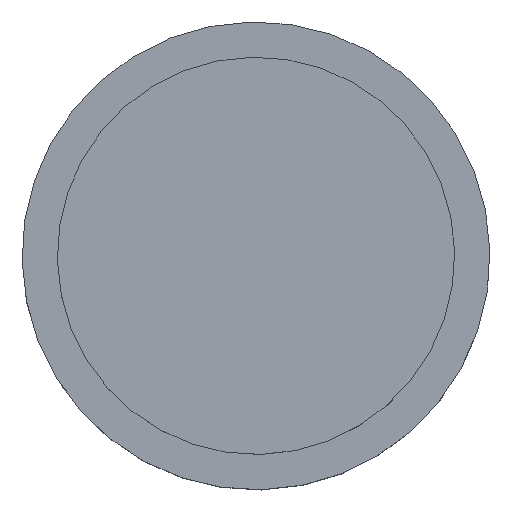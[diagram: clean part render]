
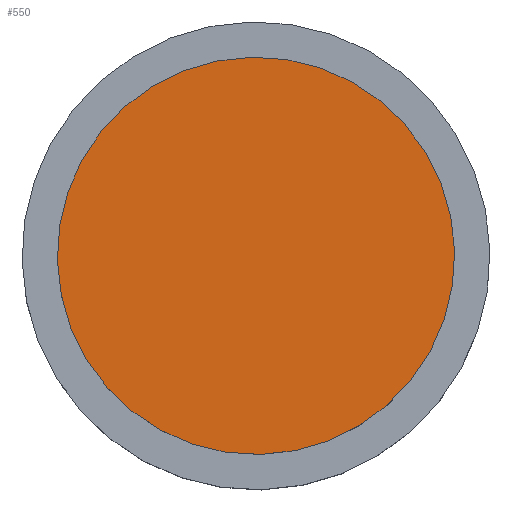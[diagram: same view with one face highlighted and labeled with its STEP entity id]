
A CAD part, top view. The second image highlights one B-rep face of the part: STEP entity #550.
In plain terms, the highlighted planar face has unit normal (0, 0, 1).
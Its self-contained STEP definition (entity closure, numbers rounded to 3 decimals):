
#450=CARTESIAN_POINT('Vertex',(12.944,23.695,0.)) ;
#453=CARTESIAN_POINT('Axis2P3D Location',(0.,0.,0.)) ;
#457=CARTESIAN_POINT('Vertex',(-12.944,-23.695,0.)) ;
#477=CARTESIAN_POINT('Axis2P3D Location',(0.,0.,0.)) ;
#541=CARTESIAN_POINT('Axis2P3D Location',(0.,27.,0.)) ;
#454=DIRECTION('Axis2P3D Direction',(0.,0.,-1.)) ;
#478=DIRECTION('Axis2P3D Direction',(0.,0.,-1.)) ;
#542=DIRECTION('Axis2P3D Direction',(0.,0.,-1.)) ;
#543=DIRECTION('Axis2P3D XDirection',(1.,0.,0.)) ;
#455=AXIS2_PLACEMENT_3D('Circle Axis2P3D',#453,#454,$) ;
#479=AXIS2_PLACEMENT_3D('Circle Axis2P3D',#477,#478,$) ;
#544=AXIS2_PLACEMENT_3D('Plane Axis2P3D',#541,#542,#543) ;
#547=ORIENTED_EDGE('',*,*,#459,.F.) ;
#548=ORIENTED_EDGE('',*,*,#481,.F.) ;
#550=ADVANCED_FACE('Corps principal',(#549),#545,.F.) ;
#456=CIRCLE('generated circle',#455,27.) ;
#480=CIRCLE('generated circle',#479,27.) ;
#459=EDGE_CURVE('',#451,#458,#456,.T.) ;
#481=EDGE_CURVE('',#458,#451,#480,.T.) ;
#546=EDGE_LOOP('',(#547,#548)) ;
#549=FACE_OUTER_BOUND('',#546,.T.) ;
#545=PLANE('',#544) ;
#451=VERTEX_POINT('',#450) ;
#458=VERTEX_POINT('',#457) ;
